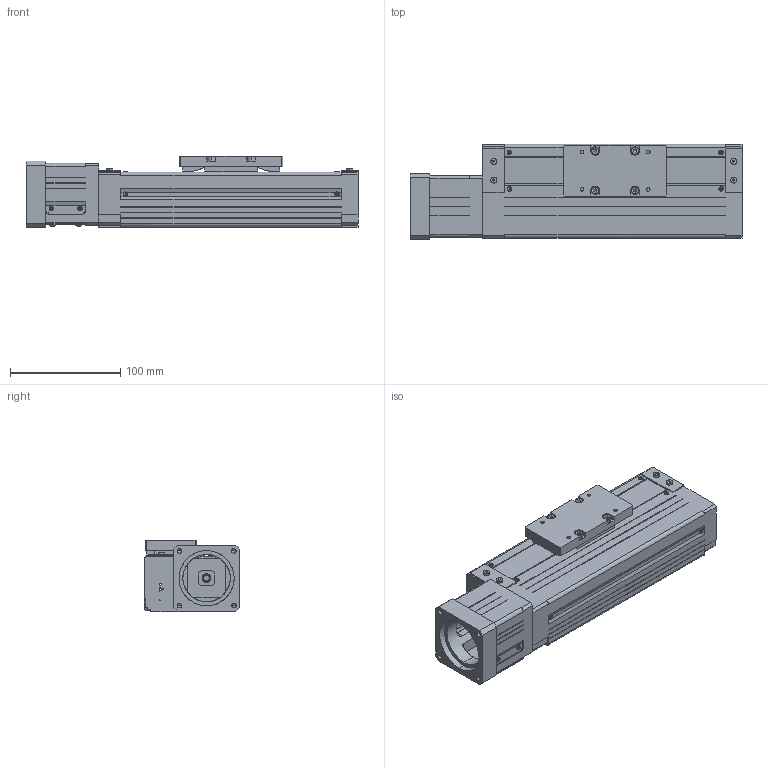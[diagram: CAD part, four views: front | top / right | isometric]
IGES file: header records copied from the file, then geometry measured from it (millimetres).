
Global section: file name: No Iges File Name specified; native system: AutoDesk Inventor R10; preprocessor: AutoDesk Inventor Iges Exporter R10; author: No Author specified; organization: No Organization specified; date: 20110701.173225; units: millimetre
Bounding box: 301 x 86.45 x 65 mm (x, y, z)
Surface area: 198433 mm2 (no closed solid volume)
Topology: 0 solids, 0 shells, 930 faces, 5776 edges, 5752 vertices
Faces by surface type: bspline 930
